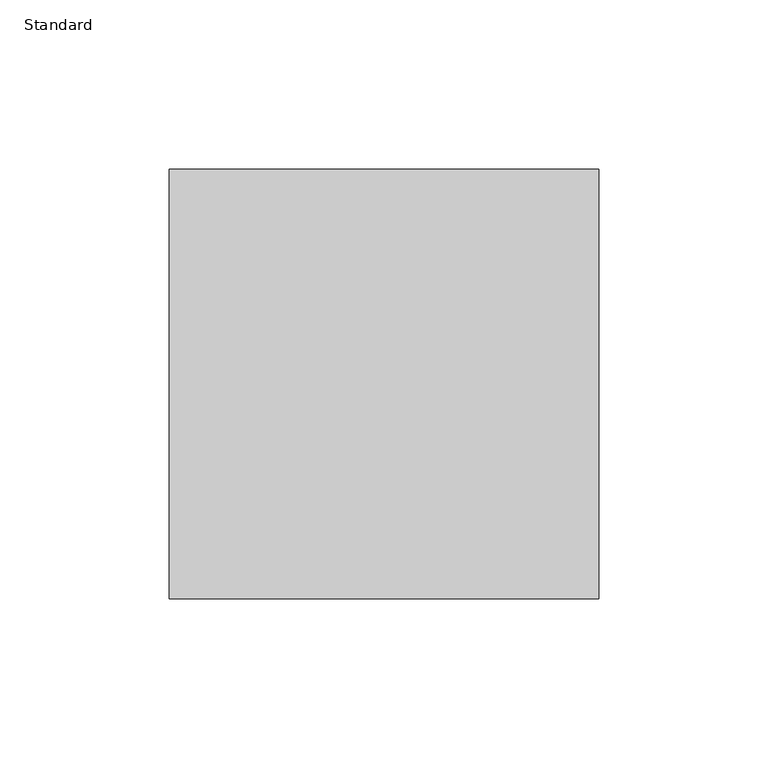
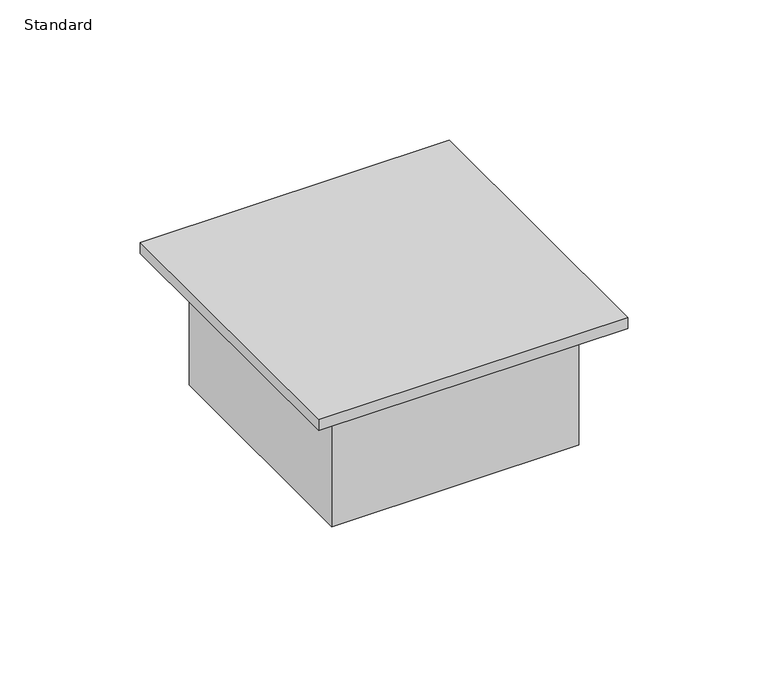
"""IFC4 building model written with IfcOpenShell, lengths in millimetres: alarm geometry, OMAHA - Fire Alarm Antenna : Standard."""

from ifc_helpers import new_model, si_unit, origin, place, context, project, spatial, faceted_brep, source, transform, mapped, element, save


def standard_909aa7f6(model_context):
    return source(origin(), model_context, "Body", "Brep", [
        faceted_brep([(50.8, 50.8, -53.975), (50.8, -50.8, -53.975), (-50.8, -50.8, -53.975), (-50.8, 50.8, -53.975), (-50.8, 50.8, 0.0), (50.8, 50.8, 0.0), (-50.8, -50.8, 0.0), (50.8, -50.8, 0.0), (63.5, 63.5, 4.7625), (-63.5, 63.5, 4.7625), (-63.5, -63.5, 4.7625), (63.5, -63.5, 4.7625), (63.5, 63.5, 0.0), (63.5, -63.5, 0.0), (-63.5, -63.5, 0.0), (-63.5, 63.5, 0.0)], [[[0, 1, 2, 3]], [[0, 3, 4, 5]], [[3, 2, 6, 4]], [[2, 1, 7, 6]], [[1, 0, 5, 7]], [[8, 9, 10, 11]], [[12, 13, 14, 15], [5, 4, 6, 7]], [[9, 8, 12, 15]], [[10, 9, 15, 14]], [[11, 10, 14, 13]], [[8, 11, 13, 12]]]),
    ])


if __name__ == "__main__":
    model = new_model("IFC4")
    model_context = context("Model", 3, world=origin())
    ifc_project = project(units=[si_unit("LENGTHUNIT", "METRE", prefix="MILLI")], contexts=[model_context])
    site = spatial("IfcSite", under=ifc_project)
    building = spatial("IfcBuilding", under=site)
    placement = place(None, origin())
    standard_shape = standard_909aa7f6(model_context)
    element("IfcAlarm", 1, ObjectType="OMAHA - Fire Alarm Antenna : Standard", at=placement, inside=building, context=model_context, shape_type="MappedRepresentation", body=[
        mapped(standard_shape, transform((0.0, 0.0, 0.0), x_axis=(1.0, 0.0, 0.0), y_axis=(0.0, 1.0, 0.0), z_axis=(0.0, 0.0, 1.0))),
    ])
    save(model, "model.ifc")
